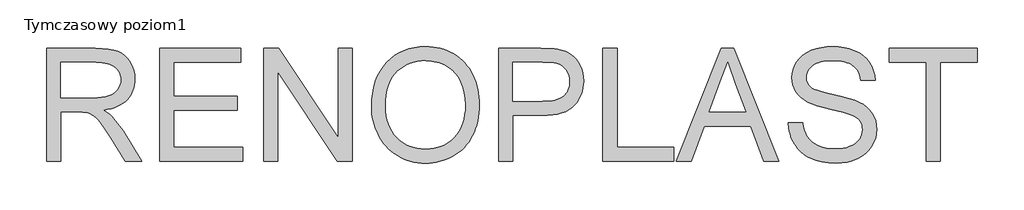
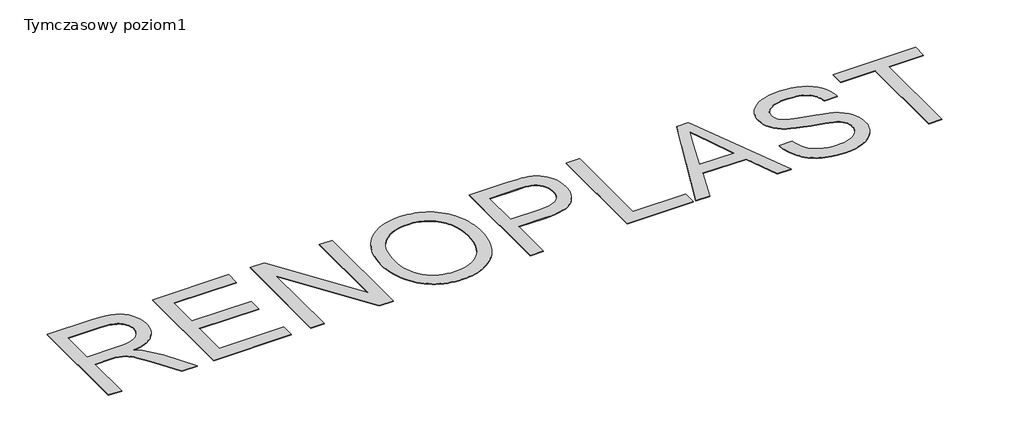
# One storey, part 4 of 4: 1 proxy.
"""IFC4 building model written with IfcOpenShell, lengths in millimetres."""

import ifcopenshell
import ifcopenshell.guid

model = None  # the IFC model being written
_history = None  # IfcOwnerHistory: only IFC2X3 demands one
_inside = {}  # id of a spatial element -> (the spatial element, [elements in it])
_under = {}  # id of a project, library or spatial element -> (it, [spatial elements below it])
_declared = {}  # id of a project -> (the project, [libraries it declares])
_typed = {}  # id of a type object -> (the type object, [elements of that type])
_made_of = {}  # id of a material, layer set ... -> (it, [elements and type objects made of it])


def new_model(schema):
    """Start an empty IFC model of exactly this schema.

    Asked for "IFC4X3", IfcOpenShell would pick the latest addendum, in which some entities
    have other attributes; the version numbers below select the first issue.
    IFC2X3 requires an IfcOwnerHistory on every rooted entity: one is made here for all.
    """
    global model, _history
    if schema == "IFC4X3":
        model = ifcopenshell.file(schema_version=(4, 3, 0, 0))
    else:
        model = ifcopenshell.file(schema=schema)
    _inside.clear()
    _under.clear()
    _declared.clear()
    _typed.clear()
    _made_of.clear()
    _history = None
    if model.schema == "IFC2X3":
        org = make("IfcOrganization", Name="unknown")
        user = make(
            "IfcPersonAndOrganization",
            ThePerson=make("IfcPerson", FamilyName="unknown"),
            TheOrganization=org,
        )
        app = make(
            "IfcApplication",
            ApplicationDeveloper=org,
            Version="unknown",
            ApplicationFullName="unknown",
            ApplicationIdentifier="unknown",
        )
        _history = make(
            "IfcOwnerHistory",
            OwningUser=user,
            OwningApplication=app,
            ChangeAction="ADDED",
            CreationDate=0,
        )
    return model


def make(cls, **values):
    """One entity of the class cls with the attributes given. An attribute that is None is left unset."""
    return model.create_entity(
        cls, **{name: value for name, value in values.items() if value is not None}
    )


def rooted(cls, **values):
    """An entity with a GlobalId (a new one), such as an element, a storey or a relation."""
    return make(cls, GlobalId=ifcopenshell.guid.new(), OwnerHistory=_history, **values)


def si_unit(unit_type, name, prefix=None):
    """IfcSIUnit, for example si_unit("LENGTHUNIT", "METRE", prefix="MILLI")."""
    return make("IfcSIUnit", UnitType=unit_type, Prefix=prefix, Name=name)


def assignment(units):
    """IfcUnitAssignment: the units of a project."""
    return None if units is None else make("IfcUnitAssignment", Units=units)


def point(xyz):
    """IfcCartesianPoint."""
    return None if xyz is None else make("IfcCartesianPoint", Coordinates=xyz)


def direction(xyz):
    """IfcDirection."""
    return None if xyz is None else make("IfcDirection", DirectionRatios=xyz)


def frame(location, z_axis=None, x_axis=None):
    """IfcAxis2Placement3D, a coordinate frame: its origin and axes. An axis left out is left unset."""
    return make(
        "IfcAxis2Placement3D",
        Location=point(location),
        Axis=direction(z_axis),
        RefDirection=direction(x_axis),
    )


def origin():
    """The frame at (0, 0, 0) with its axes left unset."""
    return frame((0.0, 0.0, 0.0))


def origin_with_axes():
    """The frame at (0, 0, 0) with the z axis (0, 0, 1) and the x axis (1, 0, 0) written out."""
    return frame((0.0, 0.0, 0.0), z_axis=(0.0, 0.0, 1.0), x_axis=(1.0, 0.0, 0.0))


def place(relative_to, where):
    """IfcLocalPlacement: puts the frame where relative to a parent placement (None: the world)."""
    return make(
        "IfcLocalPlacement", PlacementRelTo=relative_to, RelativePlacement=where
    )


def context(
    kind, dimensions, precision=None, world=None, true_north=None, identifier=None
):
    """IfcGeometricRepresentationContext, for example the 3D "Model" context."""
    return make(
        "IfcGeometricRepresentationContext",
        ContextIdentifier=identifier,
        ContextType=kind,
        CoordinateSpaceDimension=dimensions,
        Precision=precision,
        WorldCoordinateSystem=world,
        TrueNorth=true_north,
    )


def project(units=None, contexts=None):
    """IfcProject with its units and contexts."""
    return rooted(
        "IfcProject",
        Name="project",
        RepresentationContexts=contexts,
        UnitsInContext=assignment(units),
    )


def spatial(cls, under=None, at=None, **own):
    """A site, building, storey or space (cls), placed at a placement, below another one or the project."""
    s = rooted(cls, ObjectPlacement=at, **own)
    if under is not None:
        _under.setdefault(under.id(), (under, []))[1].append(s)
    return s


def polyline(points):
    """IfcPolyline through the points."""
    return make("IfcPolyline", Points=[point(p) for p in points])


def outline(outer, holes=None, kind="AREA"):
    """IfcArbitraryClosedProfileDef: a profile drawn as a closed curve; with holes, ...WithVoids."""
    if holes is None:
        return make("IfcArbitraryClosedProfileDef", ProfileType=kind, OuterCurve=outer)
    return make(
        "IfcArbitraryProfileDefWithVoids",
        ProfileType=kind,
        OuterCurve=outer,
        InnerCurves=holes,
    )


def extrude(swept, where, along, depth):
    """IfcExtrudedAreaSolid: the profile swept, set in the frame where, extruded along a direction by depth."""
    return make(
        "IfcExtrudedAreaSolid",
        SweptArea=swept,
        Position=where,
        ExtrudedDirection=direction(along),
        Depth=depth,
    )


def shape(context_of_items, identifier, shape_type, items):
    """IfcShapeRepresentation: the items that make up one representation, for example the "Body"."""
    return make(
        "IfcShapeRepresentation",
        ContextOfItems=context_of_items,
        RepresentationIdentifier=identifier,
        RepresentationType=shape_type,
        Items=items,
    )


def made_of(thing, what):
    """Note that an element or type object is made of a material, layer set ...; save() writes the relation."""
    if what is not None:
        _made_of.setdefault(what.id(), (what, []))[1].append(thing)
    return thing


def element(
    cls,
    number,
    at=None,
    inside=None,
    cuts=None,
    type_object=None,
    material=None,
    context=None,
    identifier="Body",
    shape_type=None,
    held_by="IfcProductDefinitionShape",
    body=None,
    shapes=None,
    **own,
):
    """One element of the class cls, such as IfcWall. Its Tag is "e" and its number.

    at: its placement. inside: the storey or other place that contains it. cuts: it is an
    opening in that element (IfcRelVoidsElement). A single representation is given by context,
    identifier, shape_type and body (its items); several are given by shapes. held_by: the class
    of the entity that holds the representations. save() writes the other relations.
    """
    e = rooted(cls, Tag="e%d" % number, ObjectPlacement=at, **own)
    if body is not None:
        shapes = [shape(context, identifier, shape_type, body)]
    if shapes is not None:
        e.Representation = make(held_by, Representations=shapes)
    if inside is not None:
        _inside.setdefault(inside.id(), (inside, []))[1].append(e)
    if cuts is not None:
        rooted(
            "IfcRelVoidsElement", RelatingBuildingElement=cuts, RelatedOpeningElement=e
        )
    if type_object is not None:
        _typed.setdefault(type_object.id(), (type_object, []))[1].append(e)
    return made_of(e, material)


def aggregate(whole, parts):
    """IfcRelAggregates: a whole, such as a stair, and the parts it consists of."""
    return rooted("IfcRelAggregates", RelatingObject=whole, RelatedObjects=parts)


def save(model, path):
    """Write the relations noted so far, then the file.

    IfcRelAggregates (storeys below a building ...), IfcRelContainedInSpatialStructure (elements
    in a storey), IfcRelDefinesByType, IfcRelAssociatesMaterial and IfcRelDeclares: one each for
    every whole, place, type object, material and project.
    """
    for whole, parts in _under.values():
        aggregate(whole, parts)
    for where, things in _inside.values():
        rooted(
            "IfcRelContainedInSpatialStructure",
            RelatedElements=things,
            RelatingStructure=where,
        )
    for kind, things in _typed.values():
        rooted("IfcRelDefinesByType", RelatedObjects=things, RelatingType=kind)
    for what, things in _made_of.values():
        rooted("IfcRelAssociatesMaterial", RelatedObjects=things, RelatingMaterial=what)
    for by, libraries in _declared.values():
        rooted("IfcRelDeclares", RelatingContext=by, RelatedDefinitions=libraries)
    model.write(path)


model = new_model("IFC4")

# Units and contexts
model_context = context("Model", 3, world=origin())
ifc_project = project(units=[si_unit("LENGTHUNIT", "METRE", prefix="MILLI")], contexts=[model_context])

# Site, building, storey
site = spatial("IfcSite", under=ifc_project)
building = spatial("IfcBuilding", under=site)
storey = spatial("IfcBuildingStorey", under=building, Name="Tymczasowy poziom1", Elevation=0.0)

# Proxy
placement = place(None, origin())
element("IfcBuildingElementProxy", 1, Name="2000 mm Arial", ObjectType="2000 mm Arial", at=placement, inside=storey, context=model_context, shape_type="SweptSolid", body=[
    extrude(outline(polyline([(-115516.4287009, 57713.2453185), (-115516.4287009, 59670.8923773), (-114672.8625244, 59670.8923773), (-114551.7791145, 59667.5915961), (-114446.1391789, 59657.6892523), (-114355.9427175, 59641.1853461), (-114281.1897303, 59618.0798773), (-114217.5339399, 59586.5955023), (-114160.6290686, 59544.9548773), (-114110.4751164, 59493.1580023), (-114067.0720833, 59431.2048773), (-114032.0479564, 59362.4261549), (-114007.030723, 59290.1524876), (-113992.0203829, 59214.3838755), (-113987.0169362, 59135.1203185), (-113989.0892593, 59083.8163204), (-113995.3062285, 59034.5734435), (-114005.6678438, 58987.391688), (-114020.1741053, 58942.2710538), (-114038.825013, 58899.211541), (-114061.6205667, 58858.2131494), (-114088.5607666, 58819.2758792), (-114119.6456127, 58782.3997303), (-114155.0618006, 58748.189597), (-114194.9960263, 58717.2503737), (-114239.4482896, 58689.5820603), (-114288.4185906, 58665.1846568), (-114341.9069293, 58644.0581632), (-114399.9133057, 58626.2025796), (-114462.4377198, 58611.6179058), (-114529.4801715, 58600.3041421), (-114448.827598, 58547.6111273), (-114416.8354105, 58521.5334619), (-114390.3992891, 58495.6350244), (-114290.1511274, 58376.7471568), (-114192.0537009, 58243.7600244), (-113865.6198774, 57713.2453185), (-114149.9948774, 57713.2453185), (-114404.7375244, 58119.0173773), (-114506.6584803, 58273.8703185), (-114588.7448774, 58387.6203185), (-114623.8884895, 58430.5006035), (-114657.1502083, 58465.9429288), (-114688.5300336, 58493.9472946), (-114718.0279656, 58514.5137009), (-114775.67962, 58543.0109435), (-114834.4066421, 58561.1129656), (-114891.640098, 58567.5651715), (-114976.3551715, 58569.7159068), (-115271.7228186, 58569.7159068), (-115271.7228186, 57713.2453185), (-115516.4287009, 57713.2453185)]), holes=[polyline([(-115271.7228186, 58814.4217891), (-114724.0022303, 58814.4217891), (-114640.9450152, 58816.5874601), (-114566.6998406, 58823.0844729), (-114501.2667064, 58833.9128277), (-114444.6456127, 58849.0725244), (-114395.5670281, 58868.9966972), (-114352.7614215, 58894.1184803), (-114316.2287928, 58924.4378737), (-114285.9691421, 58959.9548773), (-114262.2363755, 58998.9220189), (-114245.2843994, 59039.5918259), (-114235.1132138, 59081.9642983), (-114231.7228186, 59126.0394362), (-114233.3396039, 59158.0540272), (-114238.1899601, 59188.619859), (-114246.273887, 59217.7369316), (-114257.5913847, 59245.405245), (-114272.1424532, 59271.6247992), (-114289.9270925, 59296.3955943), (-114310.9453025, 59319.7176301), (-114335.1970833, 59341.5909068), (-114362.9438089, 59361.4179978), (-114394.4468535, 59378.6014766), (-114429.706217, 59393.1413433), (-114468.7218994, 59405.0375979), (-114511.4939008, 59414.2902404), (-114558.0222211, 59420.8992707), (-114662.3478186, 59426.186495), (-115271.7228186, 59426.186495), (-115271.7228186, 58814.4217891)])]), origin_with_axes(), (0.0, 0.0, 1.0), 10.0),
    extrude(outline(polyline([(-113558.7816421, 57713.2453185), (-113558.7816421, 59670.8923773), (-112151.7228186, 59670.8923773), (-112151.7228186, 59426.186495), (-113314.0757597, 59426.186495), (-113314.0757597, 58845.0100244), (-112212.8992891, 58845.0100244), (-112212.8992891, 58600.3041421), (-113314.0757597, 58600.3041421), (-113314.0757597, 57957.9512009), (-112121.1345833, 57957.9512009), (-112121.1345833, 57713.2453185), (-113558.7816421, 57713.2453185)])), origin_with_axes(), (0.0, 0.0, 1.0), 10.0),
    extrude(outline(polyline([(-111754.0757597, 57713.2453185), (-111754.0757597, 59670.8923773), (-111492.163995, 59670.8923773), (-110469.3698774, 58119.9732597), (-110469.3698774, 59670.8923773), (-110224.663995, 59670.8923773), (-110224.663995, 57713.2453185), (-110486.5757597, 57713.2453185), (-111509.3698774, 59264.6423773), (-111509.3698774, 57713.2453185), (-111754.0757597, 57713.2453185)])), origin_with_axes(), (0.0, 0.0, 1.0), 10.0),
    extrude(outline(polyline([(-109888.1934068, 58666.2600244), (-109884.1159711, 58784.3637698), (-109871.8836641, 58895.8808884), (-109851.4964858, 59000.8113801), (-109822.9544362, 59099.155245), (-109786.2575152, 59190.912483), (-109741.405723, 59276.0830943), (-109688.3990594, 59354.6670786), (-109627.2375244, 59426.6644362), (-109559.6312515, 59491.0744775), (-109487.2903737, 59546.8965134), (-109410.2148912, 59594.1305437), (-109328.4048039, 59632.7765685), (-109241.8601118, 59662.8345878), (-109150.5808149, 59684.3046016), (-109054.5669132, 59697.1866099), (-108953.8184068, 59701.4806126), (-108887.1381448, 59699.4642983), (-108822.1157414, 59693.4153553), (-108758.7511963, 59683.3337836), (-108697.0445097, 59669.2195832), (-108636.9956816, 59651.0727542), (-108578.6047119, 59628.8932965), (-108521.8716007, 59602.6812101), (-108466.796348, 59572.436495), (-108414.1630759, 59538.5848176), (-108364.7559068, 59501.5518443), (-108318.5748406, 59461.337575), (-108275.6198774, 59417.9420097), (-108235.8910171, 59371.3651485), (-108199.3882597, 59321.6069913), (-108166.1116053, 59268.6675382), (-108136.0610539, 59212.5467891), (-108109.4008976, 59153.864574), (-108086.2954289, 59093.2407229), (-108066.7446476, 59030.6752358), (-108050.7485539, 58966.1681126), (-108038.3071476, 58899.7193535), (-108029.4204289, 58831.3289582), (-108024.0883976, 58760.996927), (-108022.3110539, 58688.7232597), (-108024.1817455, 58615.5011779), (-108029.7938204, 58544.2356678), (-108039.1472786, 58474.9267294), (-108052.24212, 58407.5743626), (-108069.0783448, 58342.1785676), (-108089.6559527, 58278.7393443), (-108113.974944, 58217.2566926), (-108142.0353186, 58157.7306126), (-108173.5271614, 58100.9601623), (-108208.1405575, 58047.7443994), (-108245.875507, 57998.083324), (-108286.7320097, 57951.9769362), (-108330.7100658, 57909.4252358), (-108377.8096752, 57870.4282229), (-108428.0308379, 57834.9858976), (-108481.3735539, 57803.0982597), (-108536.8184642, 57774.869859), (-108593.3462101, 57750.405245), (-108650.9567914, 57729.7044178), (-108709.6502083, 57712.7673773), (-108769.4264606, 57699.5941237), (-108830.2855483, 57690.1846568), (-108892.2274716, 57684.5389766), (-108955.2522303, 57682.6570832), (-109023.1646844, 57684.7368741), (-109089.2549877, 57690.9762468), (-109153.5231402, 57701.3752013), (-109215.9691421, 57715.9337376), (-109276.5929932, 57734.6518557), (-109335.3946936, 57757.5295557), (-109392.3742432, 57784.5668374), (-109447.5316421, 57815.7637009), (-109500.1350428, 57850.556325), (-109549.452598, 57888.3808884), (-109595.4843075, 57929.2373911), (-109638.2301715, 57973.1258332), (-109677.6901899, 58020.0462147), (-109713.8643627, 58069.9985354), (-109746.7526899, 58122.9827955), (-109776.3551715, 58178.998995), (-109802.5672579, 58236.9530966), (-109825.2843994, 58295.751063), (-109844.5065961, 58355.3928944), (-109860.233848, 58415.8785906), (-109872.466155, 58477.2081517), (-109881.2035171, 58539.3815777), (-109886.4459344, 58602.3988686), (-109888.1934068, 58666.2600244)]), holes=[polyline([(-109643.4875244, 58663.8703185), (-109640.4294477, 58580.4770511), (-109631.2552175, 58501.6391604), (-109615.9648337, 58427.3566467), (-109594.5582965, 58357.6295097), (-109567.0356058, 58292.4577496), (-109533.3967616, 58231.8413663), (-109493.6417639, 58175.7803599), (-109447.7706127, 58124.2747303), (-109397.284342, 58078.1235354), (-109343.6839858, 58038.1258332), (-109286.9695442, 58004.2816237), (-109227.1410171, 57976.5909068), (-109164.1984045, 57955.0536825), (-109098.1417064, 57939.6699509), (-109028.9709229, 57930.4397119), (-108956.6860539, 57927.3629656), (-108883.0793788, 57930.4695832), (-108812.8108241, 57939.7894362), (-108745.8803898, 57955.3225244), (-108682.2880759, 57977.0688479), (-108622.0338824, 58005.0284068), (-108565.1178094, 58039.2012009), (-108511.5398567, 58079.5872303), (-108461.3000244, 58126.186495), (-108415.7649256, 58178.4986503), (-108376.3011733, 58236.0233516), (-108342.9087675, 58298.7605989), (-108315.5877083, 58366.7103921), (-108294.3379955, 58439.8727312), (-108279.1596292, 58518.2476163), (-108270.0526095, 58601.8350474), (-108267.0169362, 58690.6350244), (-108272.2145465, 58802.6226163), (-108287.8073774, 58907.2618626), (-108313.7954289, 59004.5527634), (-108350.1787009, 59094.4953185), (-108372.1677289, 59136.4159872), (-108396.5539307, 59175.9096108), (-108423.3373062, 59212.9761894), (-108452.5178553, 59247.6157229), (-108484.0955782, 59279.8282114), (-108518.0704748, 59309.6136549), (-108554.4425451, 59336.9720534), (-108593.2117891, 59361.9034068), (-108633.7957161, 59384.1388732), (-108675.6118351, 59403.4096108), (-108718.6601462, 59419.7156195), (-108762.9406494, 59433.0568994), (-108855.1982322, 59450.8452726), (-108952.3845833, 59456.7747303), (-109021.8876853, 59453.918285), (-109088.9264031, 59445.348949), (-109153.5007368, 59431.0667225), (-109215.6106862, 59411.0716053), (-109275.2562515, 59385.3635975), (-109332.4374325, 59353.942699), (-109387.1542294, 59316.80891), (-109439.4066421, 59273.9622303), (-109487.2380989, 59224.4393098), (-109528.6920281, 59167.2767983), (-109563.7684298, 59102.4746958), (-109592.4673039, 59030.0330023), (-109614.7886504, 58949.9517179), (-109630.7324693, 58862.2308424), (-109640.2987607, 58766.870376), (-109643.4875244, 58663.8703185)])]), origin_with_axes(), (0.0, 0.0, 1.0), 10.0),
    extrude(outline(polyline([(-107685.8404656, 57713.2453185), (-107685.8404656, 59670.8923773), (-106960.3257597, 59670.8923773), (-106791.3735539, 59666.2324509), (-106723.9241053, 59660.4075428), (-106667.8257597, 59652.2526715), (-106599.7340777, 59637.570916), (-106537.4075612, 59617.4227082), (-106480.8462101, 59591.8080483), (-106430.0500244, 59560.7269362), (-106384.4813204, 59523.5371384), (-106343.6024141, 59479.5964215), (-106307.4133057, 59428.9047854), (-106275.913995, 59371.4622303), (-106250.4038847, 59309.1655851), (-106232.1823774, 59243.9116788), (-106221.249473, 59175.7005115), (-106217.6051715, 59104.5320832), (-106220.0658218, 59043.2435952), (-106227.4477726, 58984.3597487), (-106239.751024, 58927.8805437), (-106256.9755759, 58873.8059803), (-106279.1214284, 58822.1360584), (-106306.1885814, 58772.8707781), (-106338.177035, 58726.0101393), (-106375.0867891, 58681.5541421), (-106418.4188778, 58641.0038204), (-106469.6743351, 58605.8602082), (-106528.8531609, 58576.1233057), (-106595.9553553, 58551.7931126), (-106670.9809183, 58532.8696292), (-106753.9298498, 58519.3528553), (-106844.8021499, 58511.242791), (-106943.5978186, 58508.5394362), (-107441.1345833, 58508.5394362), (-107441.1345833, 57713.2453185), (-107685.8404656, 57713.2453185)]), holes=[polyline([(-107441.1345833, 58753.2453185), (-106929.2595833, 58753.2453185), (-106811.5665686, 58758.8611273), (-106759.6203369, 58765.8808884), (-106712.2742891, 58775.7085538), (-106669.5284252, 58788.3441237), (-106631.382745, 58803.7875979), (-106597.8372487, 58822.0389766), (-106568.8919362, 58843.0982597), (-106543.9120419, 58866.7040731), (-106522.2628002, 58892.5950428), (-106503.944211, 58920.7711687), (-106488.9562744, 58951.2324509), (-106477.2989904, 58983.9788893), (-106468.972359, 59019.010484), (-106463.9763801, 59056.3272349), (-106462.3110539, 59095.9291421), (-106466.2391329, 59153.0431126), (-106478.02337, 59205.8556126), (-106497.6637652, 59254.3666421), (-106525.1603186, 59298.5762009), (-106559.0493351, 59337.0504656), (-106597.86712, 59368.3556126), (-106641.6136733, 59392.4916421), (-106690.288995, 59409.4585538), (-106730.4957965, 59416.7770281), (-106784.6823774, 59422.0045097), (-106934.9948774, 59426.186495), (-107441.1345833, 59426.186495), (-107441.1345833, 58753.2453185)])]), origin_with_axes(), (0.0, 0.0, 1.0), 10.0),
    extrude(outline(polyline([(-105881.1345833, 57713.2453185), (-105881.1345833, 59670.8923773), (-105636.4287009, 59670.8923773), (-105636.4287009, 57957.9512009), (-104657.6051715, 57957.9512009), (-104657.6051715, 57713.2453185), (-105881.1345833, 57713.2453185)])), origin_with_axes(), (0.0, 0.0, 1.0), 10.0),
    extrude(outline(polyline([(-104610.288995, 57713.2453185), (-103828.8551715, 59670.8923773), (-103620.4728186, 59670.8923773), (-102839.038995, 57713.2453185), (-103097.6051715, 57713.2453185), (-103321.7595833, 58325.0100244), (-104128.046348, 58325.0100244), (-104351.7228186, 57713.2453185), (-104610.288995, 57713.2453185)]), holes=[polyline([(-104038.1934068, 58569.7159068), (-103411.1345833, 58569.7159068), (-103587.4948774, 59051.0026715), (-103724.663995, 59426.186495), (-103846.538995, 59093.061495), (-104038.1934068, 58569.7159068)])]), origin_with_axes(), (0.0, 0.0, 1.0), 10.0),
    extrude(outline(polyline([(-102669.3698774, 58386.186495), (-102424.663995, 58386.186495), (-102413.4622487, 58314.958324), (-102396.5849509, 58250.3914582), (-102374.0321016, 58192.4858976), (-102345.8037009, 58141.2416421), (-102310.4659252, 58095.628131), (-102266.5849509, 58054.6148038), (-102214.1607781, 58018.2016604), (-102153.1934068, 57986.3887009), (-102085.9231862, 57960.5649417), (-102014.5904656, 57942.1193994), (-101939.195245, 57931.052074), (-101859.7375244, 57927.3629656), (-101789.4503002, 57930.1559343), (-101723.4048039, 57938.5348406), (-101661.6010355, 57952.4996843), (-101604.038995, 57972.0504656), (-101552.1375704, 57996.4852082), (-101507.3156494, 58025.1019362), (-101469.5732322, 58057.9006494), (-101438.9103186, 58094.8813479), (-101415.177552, 58134.445916), (-101398.2255759, 58174.9962376), (-101388.0543902, 58216.532313), (-101384.663995, 58259.0541421), (-101387.2030575, 58301.3967432), (-101394.820245, 58340.9613112), (-101407.5155575, 58377.7478461), (-101425.288995, 58411.7563479), (-101450.9185906, 58443.1660446), (-101487.1823774, 58472.1561641), (-101534.0803553, 58498.7267064), (-101591.6125244, 58522.8776715), (-101720.83587, 58561.2921935), (-101947.9176715, 58616.3151715), (-102075.3935447, 58647.6053829), (-102181.8101347, 58678.1488112), (-102267.1674417, 58707.9454564), (-102331.4654656, 58736.9953185), (-102396.8089858, 58775.9773957), (-102453.280723, 58819.3206862), (-102500.880677, 58867.0251898), (-102539.608848, 58919.0909068), (-102569.6145925, 58974.9801531), (-102591.0472671, 59034.155245), (-102603.9068719, 59096.6161825), (-102608.1934068, 59162.3629656), (-102602.8912469, 59235.2340593), (-102586.9847671, 59305.6855759), (-102560.4739675, 59373.7175152), (-102523.358848, 59439.3298773), (-102476.0576072, 59499.8491788), (-102418.9884436, 59552.6019362), (-102352.1513572, 59597.5881494), (-102275.546348, 59634.8078185), (-102191.7572855, 59663.977166), (-102103.3680391, 59684.8124141), (-102010.378609, 59697.313563), (-101912.788995, 59701.4806126), (-101806.327598, 59697.1193994), (-101706.3184068, 59684.0357597), (-101612.7614215, 59662.2296935), (-101525.6566421, 59631.7012009), (-101446.61712, 59592.7191237), (-101377.2559068, 59545.5523038), (-101317.5730024, 59490.2007413), (-101267.5684068, 59426.6644362), (-101227.6304472, 59356.7954104), (-101198.1474509, 59282.4456862), (-101179.1194178, 59203.6152634), (-101170.546348, 59120.3041421), (-101415.2522303, 59120.3041421), (-101421.9135355, 59160.6154932), (-101431.6217156, 59198.3877818), (-101444.3767708, 59233.6210079), (-101460.1787009, 59266.3151715), (-101479.0275061, 59296.4702726), (-101500.9231862, 59324.0863112), (-101525.8657414, 59349.1632873), (-101553.8551715, 59371.7012009), (-101585.1379151, 59391.6403093), (-101619.9604105, 59408.92087), (-101658.3226577, 59423.5428829), (-101700.2246568, 59435.5063479), (-101745.6664077, 59444.8112652), (-101794.6479105, 59451.4576347), (-101903.2301715, 59456.7747303), (-102015.2775061, 59451.5173773), (-102065.1850198, 59444.9456862), (-102111.015098, 59435.7453185), (-102152.7677404, 59423.9162744), (-102190.4429472, 59409.4585538), (-102224.0407184, 59392.3721568), (-102253.5610539, 59372.6570832), (-102301.6538847, 59328.4176531), (-102320.5474969, 59304.662483), (-102336.0059068, 59279.8170097), (-102348.0291145, 59253.881233), (-102356.61712, 59226.8551531), (-102361.7699233, 59198.7387698), (-102363.4875244, 59169.5320832), (-102358.6184987, 59120.2145281), (-102344.0114215, 59075.4971568), (-102319.6662928, 59035.3799693), (-102285.5831127, 58999.8629656), (-102262.6120649, 58983.0902174), (-102231.9342156, 58966.2278553), (-102147.4581127, 58932.2342891), (-102032.1548039, 58897.8822671), (-101886.0242891, 58863.1717891), (-101737.8027818, 58829.3275796), (-101616.226495, 58797.5743626), (-101521.2954289, 58767.9121384), (-101453.0095833, 58740.3409068), (-101377.9877542, 58698.5509251), (-101313.5105024, 58651.5633332), (-101259.5778277, 58599.378131), (-101216.1897303, 58541.9953185), (-101182.8383976, 58479.713609), (-101159.0160171, 58412.8317156), (-101144.7225888, 58341.3496384), (-101139.9581127, 58265.2673773), (-101145.4395005, 58188.7221108), (-101161.8836641, 58114.4171935), (-101189.2906035, 58042.3526255), (-101227.6603186, 57972.5284068), (-101276.3207046, 57907.6478921), (-101334.5996568, 57850.4144362), (-101402.4971752, 57800.8280391), (-101480.0132597, 57758.8887009), (-101564.8926255, 57725.5373682), (-101654.8799877, 57701.7149876), (-101749.9753461, 57687.4215593), (-101850.1787009, 57682.6570832), (-101975.3544822, 57687.7949509), (-102089.9259436, 57703.2085538), (-102193.8930851, 57728.8978921), (-102241.9000359, 57745.5959619), (-102287.2559068, 57764.8629656), (-102330.1025865, 57786.7138387), (-102370.5819638, 57811.1635171), (-102408.6940387, 57838.2120005), (-102444.4388112, 57867.8592891), (-102477.8162813, 57900.1053829), (-102508.8264491, 57934.9502818), (-102537.4693144, 57972.3939858), (-102563.7448774, 58012.436495), (-102587.3506908, 58054.4505115), (-102607.9843075, 58097.8087376), (-102625.6457276, 58142.5111733), (-102640.3349509, 58188.5578185), (-102652.0519776, 58235.9486733), (-102660.7968075, 58284.6837376), (-102669.3698774, 58386.186495)])), origin_with_axes(), (0.0, 0.0, 1.0), 10.0),
    extrude(outline(polyline([(-100283.4875244, 57713.2453185), (-100283.4875244, 59426.186495), (-100925.8404656, 59426.186495), (-100925.8404656, 59670.8923773), (-99396.4287009, 59670.8923773), (-99396.4287009, 59426.186495), (-100038.7816421, 59426.186495), (-100038.7816421, 57713.2453185), (-100283.4875244, 57713.2453185)])), origin_with_axes(), (0.0, 0.0, 1.0), 10.0),
])

save(model, "model.ifc")
